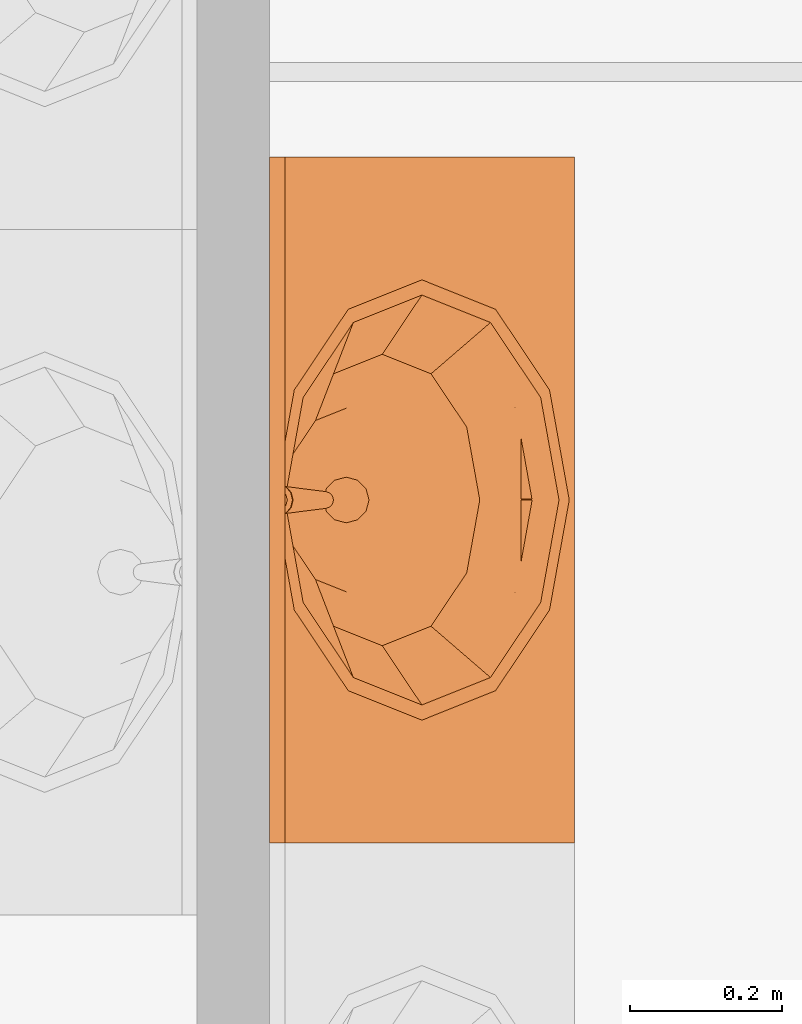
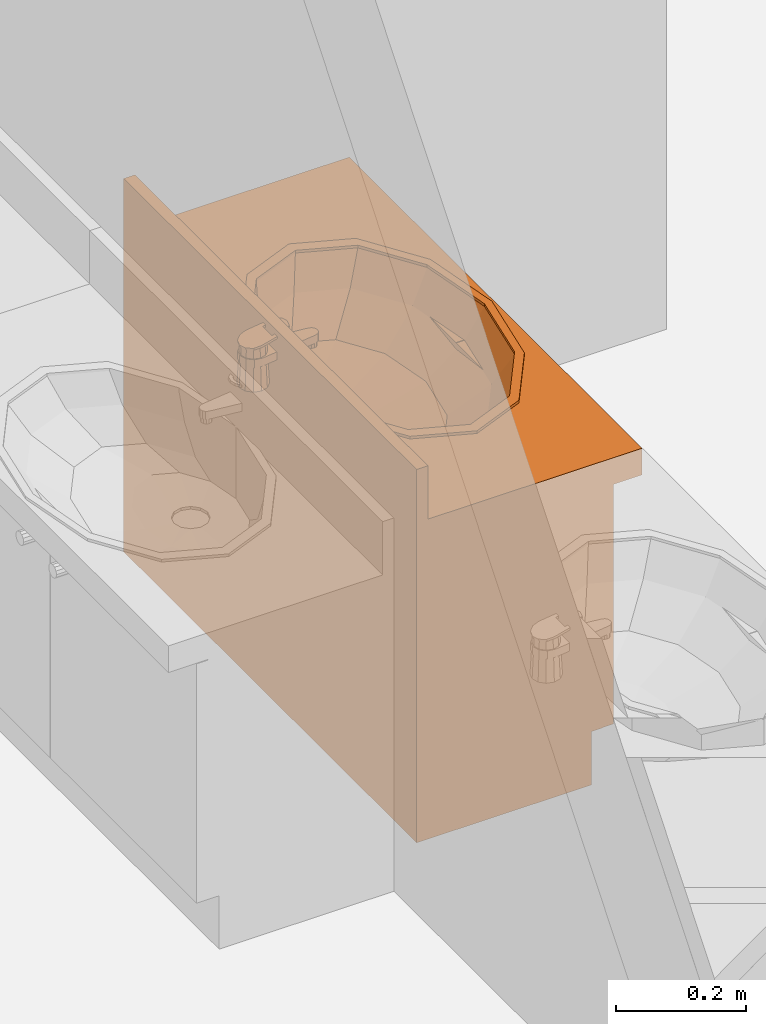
# One storey, part 15 of 17: 1 proxy.
"""IFC2X3 building model written with IfcOpenShell, lengths in millimetres."""

import ifcopenshell
import ifcopenshell.guid

model = None  # the IFC model being written
_history = None  # IfcOwnerHistory: only IFC2X3 demands one
_inside = {}  # id of a spatial element -> (the spatial element, [elements in it])
_under = {}  # id of a project, library or spatial element -> (it, [spatial elements below it])
_declared = {}  # id of a project -> (the project, [libraries it declares])
_typed = {}  # id of a type object -> (the type object, [elements of that type])
_made_of = {}  # id of a material, layer set ... -> (it, [elements and type objects made of it])


def new_model(schema):
    """Start an empty IFC model of exactly this schema.

    Asked for "IFC4X3", IfcOpenShell would pick the latest addendum, in which some entities
    have other attributes; the version numbers below select the first issue.
    IFC2X3 requires an IfcOwnerHistory on every rooted entity: one is made here for all.
    """
    global model, _history
    if schema == "IFC4X3":
        model = ifcopenshell.file(schema_version=(4, 3, 0, 0))
    else:
        model = ifcopenshell.file(schema=schema)
    _inside.clear()
    _under.clear()
    _declared.clear()
    _typed.clear()
    _made_of.clear()
    _history = None
    if model.schema == "IFC2X3":
        org = make("IfcOrganization", Name="unknown")
        user = make(
            "IfcPersonAndOrganization",
            ThePerson=make("IfcPerson", FamilyName="unknown"),
            TheOrganization=org,
        )
        app = make(
            "IfcApplication",
            ApplicationDeveloper=org,
            Version="unknown",
            ApplicationFullName="unknown",
            ApplicationIdentifier="unknown",
        )
        _history = make(
            "IfcOwnerHistory",
            OwningUser=user,
            OwningApplication=app,
            ChangeAction="ADDED",
            CreationDate=0,
        )
    return model


def make(cls, **values):
    """One entity of the class cls with the attributes given. An attribute that is None is left unset."""
    return model.create_entity(
        cls, **{name: value for name, value in values.items() if value is not None}
    )


def entity(cls, *values):
    """Any entity or typed value of the class cls, its attributes in the order of the schema. None: left unset."""
    e = model.create_entity(cls)
    for i, value in enumerate(values):
        if value is not None:
            e[i] = value
    return e


def rooted(cls, **values):
    """An entity with a GlobalId (a new one), such as an element, a storey or a relation."""
    return make(cls, GlobalId=ifcopenshell.guid.new(), OwnerHistory=_history, **values)


def si_unit(unit_type, name, prefix=None):
    """IfcSIUnit, for example si_unit("LENGTHUNIT", "METRE", prefix="MILLI")."""
    return make("IfcSIUnit", UnitType=unit_type, Prefix=prefix, Name=name)


def converted_unit(unit_type, name, factor, base, dimensions=None, offset=None):
    """IfcConversionBasedUnit, such as the inch: factor (a typed value) times the base unit."""
    return make(
        "IfcConversionBasedUnit"
        if offset is None
        else "IfcConversionBasedUnitWithOffset",
        ConversionOffset=offset,
        Dimensions=None
        if dimensions is None
        else entity("IfcDimensionalExponents", *dimensions),
        UnitType=unit_type,
        Name=name,
        ConversionFactor=make(
            "IfcMeasureWithUnit", ValueComponent=factor, UnitComponent=base
        ),
    )


def assignment(units):
    """IfcUnitAssignment: the units of a project."""
    return None if units is None else make("IfcUnitAssignment", Units=units)


def point(xyz):
    """IfcCartesianPoint."""
    return None if xyz is None else make("IfcCartesianPoint", Coordinates=xyz)


def direction(xyz):
    """IfcDirection."""
    return None if xyz is None else make("IfcDirection", DirectionRatios=xyz)


def frame(location, z_axis=None, x_axis=None):
    """IfcAxis2Placement3D, a coordinate frame: its origin and axes. An axis left out is left unset."""
    return make(
        "IfcAxis2Placement3D",
        Location=point(location),
        Axis=direction(z_axis),
        RefDirection=direction(x_axis),
    )


def origin_with_axes():
    """The frame at (0, 0, 0) with the z axis (0, 0, 1) and the x axis (1, 0, 0) written out."""
    return frame((0.0, 0.0, 0.0), z_axis=(0.0, 0.0, 1.0), x_axis=(1.0, 0.0, 0.0))


def place(relative_to, where):
    """IfcLocalPlacement: puts the frame where relative to a parent placement (None: the world)."""
    return make(
        "IfcLocalPlacement", PlacementRelTo=relative_to, RelativePlacement=where
    )


def context(
    kind, dimensions, precision=None, world=None, true_north=None, identifier=None
):
    """IfcGeometricRepresentationContext, for example the 3D "Model" context."""
    return make(
        "IfcGeometricRepresentationContext",
        ContextIdentifier=identifier,
        ContextType=kind,
        CoordinateSpaceDimension=dimensions,
        Precision=precision,
        WorldCoordinateSystem=world,
        TrueNorth=true_north,
    )


def project(units=None, contexts=None):
    """IfcProject with its units and contexts."""
    return rooted(
        "IfcProject",
        Name="project",
        RepresentationContexts=contexts,
        UnitsInContext=assignment(units),
    )


def spatial(cls, under=None, at=None, **own):
    """A site, building, storey or space (cls), placed at a placement, below another one or the project."""
    s = rooted(cls, ObjectPlacement=at, **own)
    if under is not None:
        _under.setdefault(under.id(), (under, []))[1].append(s)
    return s


def faces_of(points, faces, orient=None, outer=None):
    """IfcFace entities. A face is a list of loops; a loop is a list of indices into points, from 0.

    orient and outer hold one flag for each loop. By default every Orientation is true, the
    first loop of a face is its IfcFaceOuterBound and the others are IfcFaceBound.
    """
    made = []
    for i, loops in enumerate(faces):
        bounds = []
        for j, loop in enumerate(loops):
            is_outer = j == 0 if outer is None else outer[i][j]
            bounds.append(
                make(
                    "IfcFaceOuterBound" if is_outer else "IfcFaceBound",
                    Bound=make("IfcPolyLoop", Polygon=[points[k] for k in loop]),
                    Orientation=True if orient is None else orient[i][j],
                )
            )
        made.append(make("IfcFace", Bounds=bounds))
    return made


def open_shell(faces, orient=None, outer=None):
    """The faces of one IfcOpenShell. surface_model builds it on its shared points."""
    return ("IfcOpenShell", faces, orient, outer)


def faceted_brep(points, faces, orient=None, outer=None, voids=None):
    """IfcFacetedBrep: a solid bounded by flat faces; with voids (closed shells), ...WithVoids."""
    shared = [point(p) for p in points]
    hull = make("IfcClosedShell", CfsFaces=faces_of(shared, faces, orient, outer))
    if voids is None:
        return make("IfcFacetedBrep", Outer=hull)
    return make(
        "IfcFacetedBrepWithVoids",
        Outer=hull,
        Voids=[
            make(cls, CfsFaces=faces_of(shared, fs, o, b)) for cls, fs, o, b in voids
        ],
    )


def surface_model(cls, points, shells):
    """IfcFaceBasedSurfaceModel or IfcShellBasedSurfaceModel (cls): surfaces that need not close."""
    shared = [point(p) for p in points]
    made = [make(c, CfsFaces=faces_of(shared, fs, o, b)) for c, fs, o, b in shells]
    if cls == "IfcFaceBasedSurfaceModel":
        return make(cls, FbsmFaces=made)
    return make(cls, SbsmBoundary=made)


def shape(context_of_items, identifier, shape_type, items):
    """IfcShapeRepresentation: the items that make up one representation, for example the "Body"."""
    return make(
        "IfcShapeRepresentation",
        ContextOfItems=context_of_items,
        RepresentationIdentifier=identifier,
        RepresentationType=shape_type,
        Items=items,
    )


def material(Name=None, Category=None):
    """IfcMaterial."""
    return make("IfcMaterial", Name=Name, Category=Category)


def made_of(thing, what):
    """Note that an element or type object is made of a material, layer set ...; save() writes the relation."""
    if what is not None:
        _made_of.setdefault(what.id(), (what, []))[1].append(thing)
    return thing


def element(
    cls,
    number,
    at=None,
    inside=None,
    cuts=None,
    type_object=None,
    material=None,
    context=None,
    identifier="Body",
    shape_type=None,
    held_by="IfcProductDefinitionShape",
    body=None,
    shapes=None,
    **own,
):
    """One element of the class cls, such as IfcWall. Its Tag is "e" and its number.

    at: its placement. inside: the storey or other place that contains it. cuts: it is an
    opening in that element (IfcRelVoidsElement). A single representation is given by context,
    identifier, shape_type and body (its items); several are given by shapes. held_by: the class
    of the entity that holds the representations. save() writes the other relations.
    """
    e = rooted(cls, Tag="e%d" % number, ObjectPlacement=at, **own)
    if body is not None:
        shapes = [shape(context, identifier, shape_type, body)]
    if shapes is not None:
        e.Representation = make(held_by, Representations=shapes)
    if inside is not None:
        _inside.setdefault(inside.id(), (inside, []))[1].append(e)
    if cuts is not None:
        rooted(
            "IfcRelVoidsElement", RelatingBuildingElement=cuts, RelatedOpeningElement=e
        )
    if type_object is not None:
        _typed.setdefault(type_object.id(), (type_object, []))[1].append(e)
    return made_of(e, material)


def aggregate(whole, parts):
    """IfcRelAggregates: a whole, such as a stair, and the parts it consists of."""
    return rooted("IfcRelAggregates", RelatingObject=whole, RelatedObjects=parts)


def save(model, path):
    """Write the relations noted so far, then the file.

    IfcRelAggregates (storeys below a building ...), IfcRelContainedInSpatialStructure (elements
    in a storey), IfcRelDefinesByType, IfcRelAssociatesMaterial and IfcRelDeclares: one each for
    every whole, place, type object, material and project.
    """
    for whole, parts in _under.values():
        aggregate(whole, parts)
    for where, things in _inside.values():
        rooted(
            "IfcRelContainedInSpatialStructure",
            RelatedElements=things,
            RelatingStructure=where,
        )
    for kind, things in _typed.values():
        rooted("IfcRelDefinesByType", RelatedObjects=things, RelatingType=kind)
    for what, things in _made_of.values():
        rooted("IfcRelAssociatesMaterial", RelatedObjects=things, RelatingMaterial=what)
    for by, libraries in _declared.values():
        rooted("IfcRelDeclares", RelatingContext=by, RelatedDefinitions=libraries)
    model.write(path)


model = new_model("IFC2X3")

# Units and contexts
model_context = context("Model", 3, precision=1e-05, world=origin_with_axes(), true_north=direction((0.0, 1.0)))
ifc_project = project(units=[si_unit("LENGTHUNIT", "METRE", prefix="MILLI"), si_unit("AREAUNIT", "SQUARE_METRE"), si_unit("VOLUMEUNIT", "CUBIC_METRE"), converted_unit("PLANEANGLEUNIT", "DEGREE", entity("IfcPlaneAngleMeasure", 0.017453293), si_unit("PLANEANGLEUNIT", "RADIAN"), dimensions=[0, 0, 0, 0, 0, 0, 0]), si_unit("SOLIDANGLEUNIT", "STERADIAN"), si_unit("MASSUNIT", "GRAM"), si_unit("TIMEUNIT", "SECOND"), si_unit("THERMODYNAMICTEMPERATUREUNIT", "DEGREE_CELSIUS"), si_unit("LUMINOUSINTENSITYUNIT", "LUMEN")], contexts=[model_context])

# Site, building, storey
site_placement = place(None, origin_with_axes())
site = spatial("IfcSite", under=ifc_project, at=site_placement, Name="\x83T\x83C\x83g", CompositionType="ELEMENT")
building_placement = place(site_placement, origin_with_axes())
building = spatial("IfcBuilding", under=site, at=building_placement, Name="Daitec-Sample 201208", CompositionType="ELEMENT")
storey_placement = place(building_placement, origin_with_axes())
storey = spatial("IfcBuildingStorey", under=building, at=storey_placement, Name="1F", CompositionType="ELEMENT", Elevation=0.0)

# Proxy
ifc_material = material(Name="\x94w\x8ci")
proxy_placement = place(storey_placement, frame((21445.071, 22295.126, 0.0), z_axis=(0.0, 0.0, 1.0), x_axis=(0.0, 1.0, 0.0)))
element("IfcBuildingElementProxy", 1, at=proxy_placement, inside=storey, material=ifc_material, Name="O2", context=model_context, shape_type="Brep", body=[
    faceted_brep([(0.0, 90.0, 0.0), (0.0, 90.0, 100.0), (-900.0, 90.0, 100.0), (-900.0, 90.0, 0.0), (0.0, 400.0, 0.0), (0.0, 400.0, 100.0), (-900.0, 400.0, 100.0), (-900.0, 400.0, 0.0)], [[[0, 1, 2, 3]], [[4, 5, 1, 0]], [[1, 5, 6, 2]], [[3, 2, 6, 7]], [[0, 3, 7, 4]], [[7, 6, 5, 4]]]),
    faceted_brep([(0.0, 70.0, 100.0), (0.0, 70.0, 120.0), (-20.0, 70.0, 120.0), (-20.0, 70.0, 100.0), (0.0, 400.0, 100.0), (0.0, 400.0, 120.0), (-20.0, 400.0, 120.0), (-880.0, 400.0, 120.0), (-900.0, 400.0, 120.0), (-900.0, 70.0, 120.0), (-880.0, 70.0, 120.0), (-880.0, 70.0, 100.0), (-900.0, 70.0, 100.0), (-900.0, 400.0, 100.0), (-880.0, 400.0, 100.0), (-20.0, 400.0, 100.0)], [[[0, 1, 2, 3]], [[4, 5, 1, 0]], [[1, 5, 6, 7, 8, 9, 10, 2]], [[3, 2, 10, 11]], [[0, 3, 11, 12, 13, 14, 15, 4]], [[15, 6, 5, 4]], [[14, 7, 6, 15]], [[13, 8, 7, 14]], [[12, 9, 8, 13]], [[11, 10, 9, 12]]]),
    faceted_brep([(0.0, 70.0, 120.0), (0.0, 70.0, 550.0), (-20.0, 70.0, 550.0), (-20.0, 70.0, 120.0), (0.0, 400.0, 120.0), (0.0, 400.0, 550.0), (-900.0, 400.0, 550.0), (-900.0, 70.0, 550.0), (-880.0, 70.0, 550.0), (-880.0, 380.0, 550.0), (-20.0, 380.0, 550.0), (-20.0, 380.0, 120.0), (-880.0, 380.0, 120.0), (-880.0, 70.0, 120.0), (-900.0, 70.0, 120.0), (-900.0, 400.0, 120.0)], [[[0, 1, 2, 3]], [[4, 5, 1, 0]], [[1, 5, 6, 7, 8, 9, 10, 2]], [[3, 2, 10, 11]], [[0, 3, 11, 12, 13, 14, 15, 4]], [[15, 6, 5, 4]], [[14, 7, 6, 15]], [[13, 8, 7, 14]], [[12, 9, 8, 13]], [[11, 10, 9, 12]]]),
    faceted_brep([(-880.0, 70.0, 223.33333), (-880.0, 70.0, 243.33333), (-880.0, 380.0, 243.33333), (-880.0, 380.0, 223.33333), (-20.0, 70.0, 223.33333), (-20.0, 70.0, 243.33333), (-20.0, 380.0, 243.33333), (-20.0, 380.0, 223.33333)], [[[0, 1, 2, 3]], [[4, 5, 1, 0]], [[1, 5, 6, 2]], [[3, 2, 6, 7]], [[0, 3, 7, 4]], [[7, 6, 5, 4]]]),
    faceted_brep([(-880.0, 70.0, 366.66667), (-880.0, 70.0, 386.66667), (-880.0, 380.0, 386.66667), (-880.0, 380.0, 366.66667), (-20.0, 70.0, 366.66667), (-20.0, 70.0, 386.66667), (-20.0, 380.0, 386.66667), (-20.0, 380.0, 366.66667)], [[[0, 1, 2, 3]], [[4, 5, 1, 0]], [[1, 5, 6, 2]], [[3, 2, 6, 7]], [[0, 3, 7, 4]], [[7, 6, 5, 4]]]),
    faceted_brep([(0.0, 400.0, 550.0), (0.0, 0.0, 550.0), (-900.0, 0.0, 550.0), (-900.0, 400.0, 550.0), (-683.82686, 110.0, 550.0), (-585.0, 44.115427, 550.0), (-450.0, 20.0, 550.0), (-315.0, 44.115427, 550.0), (-216.17314, 110.0, 550.0), (-180.0, 200.0, 550.0), (-216.17314, 290.0, 550.0), (-315.0, 355.88457, 550.0), (-450.0, 380.0, 550.0), (-585.0, 355.88457, 550.0), (-683.82686, 290.0, 550.0), (-720.0, 200.0, 550.0), (0.0, 400.0, 600.0), (0.0, 0.0, 600.0), (-900.0, 0.0, 600.0), (-900.0, 400.0, 600.0), (-683.82686, 110.0, 600.0), (-585.0, 44.115427, 600.0), (-450.0, 20.0, 600.0), (-315.0, 44.115427, 600.0), (-216.17314, 110.0, 600.0), (-180.0, 200.0, 600.0), (-216.17314, 290.0, 600.0), (-315.0, 355.88457, 600.0), (-450.0, 380.0, 600.0), (-585.0, 355.88457, 600.0), (-683.82686, 290.0, 600.0), (-720.0, 200.0, 600.0)], [[[0, 1, 2, 3], [4, 5, 6, 7, 8, 9, 10, 11, 12, 13, 14, 15]], [[1, 0, 16, 17]], [[2, 1, 17, 18]], [[3, 2, 18, 19]], [[0, 3, 19, 16]], [[20, 21, 5, 4]], [[21, 22, 6, 5]], [[22, 23, 7, 6]], [[23, 24, 8, 7]], [[24, 25, 9, 8]], [[25, 26, 10, 9]], [[26, 27, 11, 10]], [[27, 28, 12, 11]], [[28, 29, 13, 12]], [[29, 30, 14, 13]], [[30, 31, 15, 14]], [[31, 20, 4, 15]], [[18, 17, 16, 19], [24, 23, 22, 21, 20, 31, 30, 29, 28, 27, 26, 25]]]),
    faceted_brep([(0.0, 380.0, 600.0), (0.0, 380.0, 700.0), (-900.0, 380.0, 700.0), (-900.0, 380.0, 600.0), (0.0, 400.0, 600.0), (0.0, 400.0, 700.0), (-900.0, 400.0, 700.0), (-900.0, 400.0, 600.0)], [[[0, 1, 2, 3]], [[4, 5, 1, 0]], [[1, 5, 6, 2]], [[3, 2, 6, 7]], [[0, 3, 7, 4]], [[7, 6, 5, 4]]]),
    faceted_brep([(-739.0, 200.0, 605.0), (-700.28134, 296.69145, 605.0), (-700.28134, 296.69145, 600.0), (-739.0, 200.0, 600.0), (-700.28134, 103.30855, 605.0), (-594.5, 32.525496, 605.0), (-450.0, 6.6171004, 605.0), (-305.5, 32.525496, 605.0), (-199.71866, 103.30855, 605.0), (-161.0, 200.0, 605.0), (-199.71866, 296.69145, 605.0), (-305.5, 367.4745, 605.0), (-450.0, 393.3829, 605.0), (-594.5, 367.4745, 605.0), (-719.0, 200.0, 605.0), (-682.96083, 290.0, 605.0), (-584.5, 355.88457, 605.0), (-450.0, 380.0, 605.0), (-315.5, 355.88457, 605.0), (-217.03917, 290.0, 605.0), (-181.0, 200.0, 605.0), (-217.03917, 110.0, 605.0), (-315.5, 44.115427, 605.0), (-450.0, 20.0, 605.0), (-584.5, 44.115427, 605.0), (-682.96083, 110.0, 605.0), (-594.5, 367.4745, 600.0), (-450.0, 393.3829, 600.0), (-305.5, 367.4745, 600.0), (-199.71866, 296.69145, 600.0), (-161.0, 200.0, 600.0), (-199.71866, 103.30855, 600.0), (-305.5, 32.525496, 600.0), (-450.0, 6.6171004, 600.0), (-594.5, 32.525496, 600.0), (-700.28134, 103.30855, 600.0), (-719.0, 200.0, 600.0), (-682.96083, 110.0, 600.0), (-584.5, 44.115427, 600.0), (-450.0, 20.0, 600.0), (-315.5, 44.115427, 600.0), (-217.03917, 110.0, 600.0), (-181.0, 200.0, 600.0), (-217.03917, 290.0, 600.0), (-315.5, 355.88457, 600.0), (-450.0, 380.0, 600.0), (-584.5, 355.88457, 600.0), (-682.96083, 290.0, 600.0)], [[[0, 1, 2, 3]], [[0, 4, 5, 6, 7, 8, 9, 10, 11, 12, 13, 1], [14, 15, 16, 17, 18, 19, 20, 21, 22, 23, 24, 25]], [[1, 13, 26, 2]], [[3, 2, 26, 27, 28, 29, 30, 31, 32, 33, 34, 35], [36, 37, 38, 39, 40, 41, 42, 43, 44, 45, 46, 47]], [[4, 0, 3, 35]], [[5, 4, 35, 34]], [[6, 5, 34, 33]], [[7, 6, 33, 32]], [[8, 7, 32, 31]], [[9, 8, 31, 30]], [[10, 9, 30, 29]], [[11, 10, 29, 28]], [[12, 11, 28, 27]], [[13, 12, 27, 26]], [[15, 14, 36, 47]], [[16, 15, 47, 46]], [[17, 16, 46, 45]], [[18, 17, 45, 44]], [[19, 18, 44, 43]], [[20, 19, 43, 42]], [[21, 20, 42, 41]], [[22, 21, 41, 40]], [[23, 22, 40, 39]], [[24, 23, 39, 38]], [[25, 24, 38, 37]], [[14, 25, 37, 36]]]),
    surface_model("IfcShellBasedSurfaceModel", [(-450.0, 380.0, 600.0), (-584.5, 355.88457, 600.0), (-571.05, 358.29612, 548.0), (-450.0, 380.0, 548.0), (-682.96083, 290.0, 600.0), (-659.66475, 299.0, 548.0), (-315.5, 355.88457, 600.0), (-328.95, 358.29612, 548.0), (-719.0, 200.0, 600.0), (-692.1, 218.0, 548.0), (-217.03917, 290.0, 600.0), (-240.33525, 299.0, 548.0), (-682.96083, 110.0, 600.0), (-659.66475, 137.0, 548.0), (-181.0, 200.0, 600.0), (-207.9, 218.0, 548.0), (-584.5, 44.115427, 600.0), (-571.05, 77.703885, 548.0), (-217.03917, 110.0, 600.0), (-240.33525, 137.0, 548.0), (-450.0, 20.0, 600.0), (-450.0, 56.0, 548.0), (-315.5, 44.115427, 600.0), (-328.95, 77.703885, 548.0)], [open_shell([[[0, 1, 2, 3]], [[1, 4, 5, 2]], [[6, 0, 3, 7]], [[4, 8, 9, 5]], [[10, 6, 7, 11]], [[8, 12, 13, 9]], [[14, 10, 11, 15]], [[12, 16, 17, 13]], [[18, 14, 15, 19]], [[16, 20, 21, 17]], [[22, 18, 19, 23]], [[20, 22, 23, 21]]])]),
    surface_model("IfcShellBasedSurfaceModel", [(-450.0, 380.0, 548.0), (-571.05, 358.29612, 548.0), (-545.6295, 362.85393, 496.0), (-450.0, 380.0, 496.0), (-659.66475, 299.0, 548.0), (-615.63515, 316.01, 496.0), (-328.95, 358.29612, 548.0), (-354.3705, 362.85393, 496.0), (-692.1, 218.0, 548.0), (-641.259, 252.02, 496.0), (-240.33525, 299.0, 548.0), (-284.36485, 316.01, 496.0), (-659.66475, 137.0, 548.0), (-615.63515, 188.03, 496.0), (-207.9, 218.0, 548.0), (-258.741, 252.02, 496.0), (-571.05, 77.703885, 548.0), (-545.6295, 141.18607, 496.0), (-240.33525, 137.0, 548.0), (-284.36485, 188.03, 496.0), (-450.0, 56.0, 548.0), (-450.0, 124.04, 496.0), (-328.95, 77.703885, 548.0), (-354.3705, 141.18607, 496.0)], [open_shell([[[0, 1, 2, 3]], [[1, 4, 5, 2]], [[6, 0, 3, 7]], [[4, 8, 9, 5]], [[10, 6, 7, 11]], [[8, 12, 13, 9]], [[14, 10, 11, 15]], [[12, 16, 17, 13]], [[18, 14, 15, 19]], [[16, 20, 21, 17]], [[22, 18, 19, 23]], [[20, 22, 23, 21]]])]),
    surface_model("IfcShellBasedSurfaceModel", [(-450.0, 380.0, 496.0), (-545.6295, 362.85393, 496.0), (-510.24659, 369.19798, 470.0), (-450.0, 380.0, 470.0), (-615.63515, 316.01, 496.0), (-554.35015, 339.6863, 470.0), (-354.3705, 362.85393, 496.0), (-389.75341, 369.19798, 470.0), (-641.259, 252.02, 496.0), (-570.49317, 299.3726, 470.0), (-284.36485, 316.01, 496.0), (-345.64985, 339.6863, 470.0), (-615.63515, 188.03, 496.0), (-554.35015, 259.0589, 470.0), (-258.741, 252.02, 496.0), (-329.50683, 299.3726, 470.0), (-545.6295, 141.18607, 496.0), (-510.24659, 229.54722, 470.0), (-284.36485, 188.03, 496.0), (-345.64985, 259.0589, 470.0), (-450.0, 124.04, 496.0), (-450.0, 218.7452, 470.0), (-354.3705, 141.18607, 496.0), (-389.75341, 229.54722, 470.0)], [open_shell([[[0, 1, 2, 3]], [[1, 4, 5, 2]], [[6, 0, 3, 7]], [[4, 8, 9, 5]], [[10, 6, 7, 11]], [[8, 12, 13, 9]], [[14, 10, 11, 15]], [[12, 16, 17, 13]], [[18, 14, 15, 19]], [[16, 20, 21, 17]], [[22, 18, 19, 23]], [[20, 22, 23, 21]]])]),
    surface_model("IfcShellBasedSurfaceModel", [(-450.0, 380.0, 470.0), (-510.24659, 369.19798, 470.0), (-465.0, 325.35336, 463.0), (-475.98076, 314.3726, 463.0), (-450.0, 329.3726, 463.0), (-554.35015, 339.6863, 470.0), (-389.75341, 369.19798, 470.0), (-480.0, 299.3726, 463.0), (-435.0, 325.35336, 463.0), (-570.49317, 299.3726, 470.0), (-345.64985, 339.6863, 470.0), (-475.98076, 284.3726, 463.0), (-424.01924, 314.3726, 463.0), (-554.35015, 259.0589, 470.0), (-329.50683, 299.3726, 470.0), (-465.0, 273.39184, 463.0), (-420.0, 299.3726, 463.0), (-510.24659, 229.54722, 470.0), (-345.64985, 259.0589, 470.0), (-450.0, 269.3726, 463.0), (-424.01924, 284.3726, 463.0), (-450.0, 218.7452, 470.0), (-389.75341, 229.54722, 470.0), (-435.0, 273.39184, 463.0)], [open_shell([[[0, 1, 2]], [[1, 3, 2]], [[0, 2, 4]], [[1, 5, 3]], [[6, 0, 4]], [[5, 7, 3]], [[6, 4, 8]], [[5, 9, 7]], [[10, 6, 8]], [[9, 11, 7]], [[10, 8, 12]], [[9, 13, 11]], [[14, 10, 12]], [[13, 15, 11]], [[14, 12, 16]], [[13, 17, 15]], [[18, 14, 16]], [[17, 19, 15]], [[18, 16, 20]], [[17, 21, 19]], [[22, 18, 20]], [[21, 23, 19]], [[22, 20, 23]], [[21, 22, 23]]])]),
    surface_model("IfcShellBasedSurfaceModel", [(-480.0, 299.3726, 463.0), (-475.98076, 314.3726, 463.0), (-475.98076, 314.3726, 458.0), (-480.0, 299.3726, 458.0), (-465.0, 325.35336, 463.0), (-465.0, 325.35336, 458.0), (-450.0, 329.3726, 458.0), (-435.0, 325.35336, 458.0), (-424.01924, 314.3726, 458.0), (-420.0, 299.3726, 458.0), (-424.01924, 284.3726, 458.0), (-435.0, 273.39184, 458.0), (-450.0, 269.3726, 458.0), (-465.0, 273.39184, 458.0), (-475.98076, 284.3726, 458.0), (-475.98076, 284.3726, 463.0), (-450.0, 329.3726, 463.0), (-435.0, 325.35336, 463.0), (-424.01924, 314.3726, 463.0), (-420.0, 299.3726, 463.0), (-424.01924, 284.3726, 463.0), (-435.0, 273.39184, 463.0), (-450.0, 269.3726, 463.0), (-465.0, 273.39184, 463.0)], [open_shell([[[0, 1, 2, 3]], [[1, 4, 5, 2]], [[3, 2, 5, 6, 7, 8, 9, 10, 11, 12, 13, 14]], [[15, 0, 3, 14]], [[4, 16, 6, 5]], [[16, 17, 7, 6]], [[17, 18, 8, 7]], [[18, 19, 9, 8]], [[19, 20, 10, 9]], [[20, 21, 11, 10]], [[21, 22, 12, 11]], [[22, 23, 13, 12]], [[23, 15, 14, 13]]])]),
    faceted_brep([(-462.5, 451.65064, 600.0), (-460.58732, 448.33778, 676.50709), (-450.0, 451.20192, 675.96154), (-450.0, 455.0, 600.0), (-471.65064, 442.5, 600.0), (-468.27355, 440.55024, 677.99043), (-471.0, 430.0, 680.0), (-468.10034, 419.54976, 681.99052), (-460.41411, 411.96224, 683.43576), (-450.0, 409.19811, 683.96226), (-439.58589, 411.96224, 683.43576), (-431.89966, 419.54976, 681.99052), (-429.0, 430.0, 680.0), (-431.72645, 440.55024, 677.99043), (-439.41268, 448.33778, 676.50709), (-437.5, 451.65064, 600.0), (-428.34936, 442.5, 600.0), (-425.0, 430.0, 600.0), (-428.34936, 417.5, 600.0), (-437.5, 408.34936, 600.0), (-450.0, 405.0, 600.0), (-462.5, 408.34936, 600.0), (-471.65064, 417.5, 600.0), (-475.0, 430.0, 600.0)], [[[0, 1, 2, 3]], [[4, 5, 1, 0]], [[1, 5, 6, 7, 8, 9, 10, 11, 12, 13, 14, 2]], [[3, 2, 14, 15]], [[0, 3, 15, 16, 17, 18, 19, 20, 21, 22, 23, 4]], [[23, 6, 5, 4]], [[22, 7, 6, 23]], [[21, 8, 7, 22]], [[20, 9, 8, 21]], [[19, 10, 9, 20]], [[18, 11, 10, 19]], [[17, 12, 11, 18]], [[16, 13, 12, 17]], [[15, 14, 13, 16]]]),
    faceted_brep([(-459.0, 327.0, 635.0), (-459.0, 327.0, 645.0), (-457.79423, 331.5, 645.0), (-457.79423, 331.5, 635.0), (-457.79423, 322.5, 635.0), (-457.79423, 322.5, 645.0), (-454.5, 319.20577, 645.0), (-450.0, 318.0, 645.0), (-445.5, 319.20577, 645.0), (-442.20577, 322.5, 645.0), (-441.0, 327.0, 645.0), (-442.20577, 331.5, 645.0), (-445.5, 334.79423, 645.0), (-450.0, 336.0, 645.0), (-454.5, 334.79423, 645.0), (-454.5, 334.79423, 635.0), (-450.0, 336.0, 635.0), (-445.5, 334.79423, 635.0), (-442.20577, 331.5, 635.0), (-441.0, 327.0, 635.0), (-442.20577, 322.5, 635.0), (-445.5, 319.20577, 635.0), (-450.0, 318.0, 635.0), (-454.5, 319.20577, 635.0)], [[[0, 1, 2, 3]], [[4, 5, 1, 0]], [[1, 5, 6, 7, 8, 9, 10, 11, 12, 13, 14, 2]], [[3, 2, 14, 15]], [[0, 3, 15, 16, 17, 18, 19, 20, 21, 22, 23, 4]], [[23, 6, 5, 4]], [[22, 7, 6, 23]], [[21, 8, 7, 22]], [[20, 9, 8, 21]], [[19, 10, 9, 20]], [[18, 11, 10, 19]], [[17, 12, 11, 18]], [[16, 13, 12, 17]], [[15, 14, 13, 16]]]),
    faceted_brep([(-440.97112, 320.71681, 660.0), (-439.08801, 325.61163, 660.0), (-426.1946, 426.9501, 660.0), (-428.27219, 440.19321, 660.0), (-437.12828, 450.2563, 660.0), (-450.0, 453.99998, 660.0), (-462.87172, 450.2563, 660.0), (-471.72781, 440.1932, 660.0), (-473.8054, 426.9501, 660.0), (-460.912, 325.6117, 660.0), (-459.02892, 320.71687, 660.0), (-455.09339, 317.25031, 660.0), (-450.00004, 316.00004, 660.0), (-444.90668, 317.25027, 660.0), (-430.94744, 419.0, 660.0), (-439.0, 410.94744, 660.0), (-450.0, 408.0, 660.0), (-461.0, 410.94744, 660.0), (-469.05256, 419.0, 660.0), (-472.0, 430.0, 660.0), (-469.05256, 441.0, 660.0), (-461.0, 449.05256, 660.0), (-450.0, 452.0, 660.0), (-439.0, 449.05256, 660.0), (-430.94744, 441.0, 660.0), (-428.0, 430.0, 660.0), (-440.97112, 320.71681, 645.0), (-439.08801, 325.61163, 645.0), (-426.1946, 426.9501, 645.0), (-428.27219, 440.19321, 645.0), (-437.12828, 450.2563, 645.0), (-450.0, 453.99998, 645.0), (-462.87172, 450.2563, 645.0), (-471.72781, 440.1932, 645.0), (-473.8054, 426.9501, 645.0), (-460.912, 325.6117, 645.0), (-459.02892, 320.71687, 645.0), (-455.09339, 317.25031, 645.0), (-450.00004, 316.00004, 645.0), (-444.90668, 317.25027, 645.0), (-430.29792, 418.625, 645.0), (-438.625, 410.29792, 645.0), (-450.0, 407.25, 645.0), (-461.375, 410.29792, 645.0), (-469.70208, 418.625, 645.0), (-472.75, 430.0, 645.0), (-469.70208, 441.375, 645.0), (-461.375, 449.70208, 645.0), (-450.0, 452.75, 645.0), (-438.625, 449.70208, 645.0), (-430.29792, 441.375, 645.0), (-427.25, 430.0, 645.0)], [[[0, 1, 2, 3, 4, 5, 6, 7, 8, 9, 10, 11, 12, 13], [14, 15, 16, 17, 18, 19, 20, 21, 22, 23, 24, 25]], [[26, 27, 1, 0]], [[27, 28, 2, 1]], [[28, 29, 3, 2]], [[29, 30, 4, 3]], [[30, 31, 5, 4]], [[31, 32, 6, 5]], [[32, 33, 7, 6]], [[33, 34, 8, 7]], [[34, 35, 9, 8]], [[35, 36, 10, 9]], [[36, 37, 11, 10]], [[37, 38, 12, 11]], [[38, 39, 13, 12]], [[39, 26, 0, 13]], [[40, 41, 15, 14]], [[41, 42, 16, 15]], [[42, 43, 17, 16]], [[43, 44, 18, 17]], [[44, 45, 19, 18]], [[20, 19, 45, 46]], [[21, 20, 46, 47]], [[22, 21, 47, 48]], [[23, 22, 48, 49]], [[24, 23, 49, 50]], [[50, 51, 25, 24]], [[51, 40, 14, 25]], [[28, 27, 26, 39, 38, 37, 36, 35, 34, 33, 32, 31, 30, 29], [44, 43, 42, 41, 40, 51, 50, 49, 48, 47, 46, 45]]]),
    faceted_brep([(-473.893, 428.30743, 680.32239), (-473.893, 429.05588, 684.25175), (-471.29642, 441.52317, 681.87703), (-471.29642, 440.77472, 677.94767), (-470.94594, 388.1633, 687.9689), (-470.94594, 388.91175, 691.89825), (-467.66314, 379.23408, 693.74161), (-460.06144, 372.2847, 695.06531), (-449.99956, 369.76284, 695.54566), (-439.93779, 372.28512, 695.06523), (-432.33638, 379.23481, 693.74148), (-429.054, 388.91261, 691.89808), (-426.10698, 429.05616, 684.2517), (-428.70371, 441.52342, 681.87698), (-437.52832, 450.83965, 680.10246), (-450.00014, 454.28041, 679.44708), (-462.47192, 450.8395, 680.10249), (-464.0, 405.20765, 688.79427), (-436.0, 405.20765, 688.79427), (-436.0, 390.39202, 691.61629), (-437.87564, 383.51565, 692.92608), (-443.0, 378.48179, 693.88491), (-450.0, 376.63928, 694.23586), (-457.0, 378.48179, 693.88491), (-462.12436, 383.51565, 692.92608), (-464.0, 390.39202, 691.61629), (-462.47192, 450.09105, 676.17313), (-450.00014, 453.53196, 675.51772), (-437.52832, 450.0912, 676.17311), (-428.70371, 440.77497, 677.94763), (-426.10698, 428.30771, 680.32234), (-429.054, 388.16417, 687.96873), (-432.33638, 378.48636, 689.81212), (-439.93779, 371.53667, 691.13587), (-449.99956, 369.01439, 691.61631), (-460.06144, 371.53625, 691.13595), (-467.66314, 378.48563, 689.81226), (-464.0, 404.4592, 684.86491), (-464.0, 389.64357, 687.68694), (-462.12436, 382.7672, 688.99672), (-457.0, 377.73334, 689.95555), (-450.0, 375.89083, 690.30651), (-443.0, 377.73334, 689.95555), (-437.87564, 382.7672, 688.99672), (-436.0, 389.64357, 687.68694), (-436.0, 404.4592, 684.86491)], [[[0, 1, 2, 3]], [[4, 5, 1, 0]], [[1, 5, 6, 7, 8, 9, 10, 11, 12, 13, 14, 15, 16, 2], [17, 18, 19, 20, 21, 22, 23, 24, 25]], [[3, 2, 16, 26]], [[0, 3, 26, 27, 28, 29, 30, 31, 32, 33, 34, 35, 36, 4], [37, 38, 39, 40, 41, 42, 43, 44, 45]], [[36, 6, 5, 4]], [[35, 7, 6, 36]], [[34, 8, 7, 35]], [[33, 9, 8, 34]], [[32, 10, 9, 33]], [[31, 11, 10, 32]], [[30, 12, 11, 31]], [[29, 13, 12, 30]], [[28, 14, 13, 29]], [[27, 15, 14, 28]], [[26, 16, 15, 27]], [[45, 18, 17, 37]], [[44, 19, 18, 45]], [[43, 20, 19, 44]], [[42, 21, 20, 43]], [[41, 22, 21, 42]], [[40, 23, 22, 41]], [[39, 24, 23, 40]], [[38, 25, 24, 39]], [[37, 17, 25, 38]]]),
    faceted_brep([(0.0, 70.0, 100.0), (0.0, 50.0, 100.0), (-449.0, 50.0, 100.0), (-449.0, 70.0, 100.0), (0.0, 70.0, 549.0), (0.0, 50.0, 549.0), (-449.0, 50.0, 549.0), (-449.0, 70.0, 549.0)], [[[0, 1, 2, 3]], [[4, 5, 1, 0]], [[1, 5, 6, 2]], [[3, 2, 6, 7]], [[0, 3, 7, 4]], [[7, 6, 5, 4]]]),
    faceted_brep([(-409.3923, 50.0, 484.0), (-411.0, 50.0, 490.0), (-409.3923, 50.0, 496.0), (-405.0, 50.0, 500.3923), (-399.0, 50.0, 502.0), (-393.0, 50.0, 500.3923), (-388.6077, 50.0, 496.0), (-387.0, 50.0, 490.0), (-388.6077, 50.0, 484.0), (-393.0, 50.0, 479.6077), (-399.0, 50.0, 478.0), (-405.0, 50.0, 479.6077), (-409.3923, 25.0, 484.0), (-411.0, 25.0, 490.0), (-409.3923, 25.0, 496.0), (-405.0, 25.0, 500.3923), (-399.0, 25.0, 502.0), (-393.0, 25.0, 500.3923), (-388.6077, 25.0, 496.0), (-387.0, 25.0, 490.0), (-388.6077, 25.0, 484.0), (-393.0, 25.0, 479.6077), (-399.0, 25.0, 478.0), (-405.0, 25.0, 479.6077)], [[[0, 1, 2, 3, 4, 5, 6, 7, 8, 9, 10, 11]], [[0, 12, 13, 1]], [[1, 13, 14, 2]], [[2, 14, 15, 3]], [[3, 15, 16, 4]], [[4, 16, 17, 5]], [[5, 17, 18, 6]], [[6, 18, 19, 7]], [[7, 19, 20, 8]], [[8, 20, 21, 9]], [[9, 21, 22, 10]], [[10, 22, 23, 11]], [[11, 23, 12, 0]], [[12, 23, 22, 21, 20, 19, 18, 17, 16, 15, 14, 13]]]),
    faceted_brep([(-899.0, 70.0, 100.0), (-450.0, 70.0, 100.0), (-450.0, 50.0, 100.0), (-899.0, 50.0, 100.0), (-899.0, 70.0, 549.0), (-450.0, 70.0, 549.0), (-450.0, 50.0, 549.0), (-899.0, 50.0, 549.0)], [[[0, 1, 2, 3]], [[0, 4, 5, 1]], [[1, 5, 6, 2]], [[3, 2, 6, 7]], [[4, 0, 3, 7]], [[5, 4, 7, 6]]]),
    faceted_brep([(-489.6077, 50.0, 484.0), (-494.0, 50.0, 479.6077), (-500.0, 50.0, 478.0), (-506.0, 50.0, 479.6077), (-510.3923, 50.0, 484.0), (-512.0, 50.0, 490.0), (-510.3923, 50.0, 496.0), (-506.0, 50.0, 500.3923), (-500.0, 50.0, 502.0), (-494.0, 50.0, 500.3923), (-489.6077, 50.0, 496.0), (-488.0, 50.0, 490.0), (-489.6077, 25.0, 484.0), (-494.0, 25.0, 479.6077), (-500.0, 25.0, 478.0), (-506.0, 25.0, 479.6077), (-510.3923, 25.0, 484.0), (-512.0, 25.0, 490.0), (-510.3923, 25.0, 496.0), (-506.0, 25.0, 500.3923), (-500.0, 25.0, 502.0), (-494.0, 25.0, 500.3923), (-489.6077, 25.0, 496.0), (-488.0, 25.0, 490.0)], [[[0, 1, 2, 3, 4, 5, 6, 7, 8, 9, 10, 11]], [[1, 0, 12, 13]], [[2, 1, 13, 14]], [[3, 2, 14, 15]], [[4, 3, 15, 16]], [[5, 4, 16, 17]], [[6, 5, 17, 18]], [[7, 6, 18, 19]], [[8, 7, 19, 20]], [[9, 8, 20, 21]], [[10, 9, 21, 22]], [[11, 10, 22, 23]], [[0, 11, 23, 12]], [[12, 23, 22, 21, 20, 19, 18, 17, 16, 15, 14, 13]]]),
])

save(model, "model.ifc")
